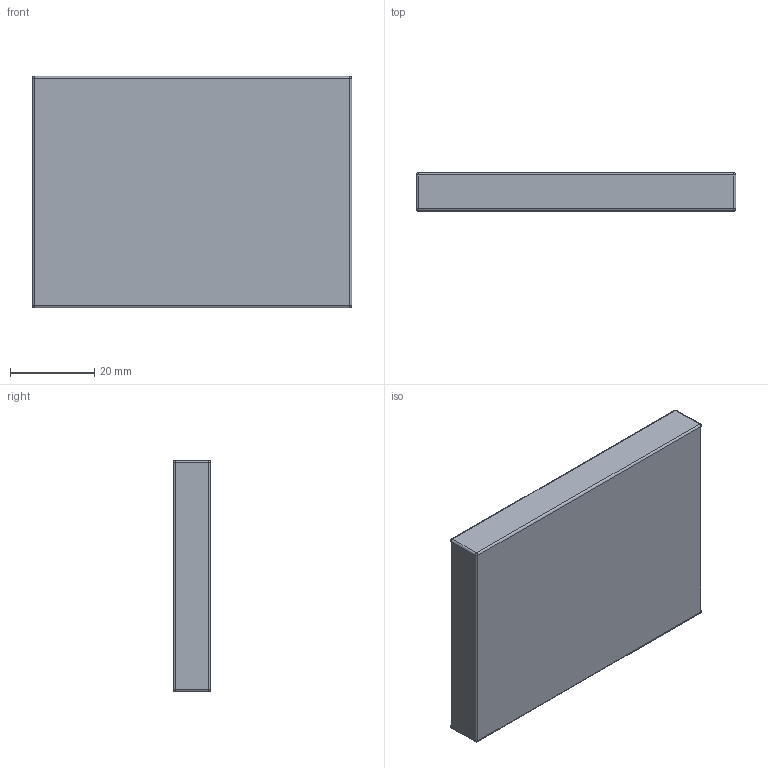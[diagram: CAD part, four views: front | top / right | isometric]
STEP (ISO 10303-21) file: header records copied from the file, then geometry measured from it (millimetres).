
FILE_DESCRIPTION (( 'STEP AP214' ), '1' );
FILE_NAME ('Li-Po Battery.STEP', '2019-09-17T04:39:46', ( '' ), ( '' ), 'SwSTEP 2.0', 'SolidWorks 2018', '' );
FILE_SCHEMA (( 'AUTOMOTIVE_DESIGN' ));
Length unit declared in the file: millimetre
Products named in the file (1): Li-Po Battery
Bounding box: 76 x 9 x 55 mm (x, y, z)
Volume: 37590.1 mm3; surface area: 10597.5 mm2
Topology: 1 solids, 1 shells, 26 faces, 56 edges, 24 vertices
Faces by surface type: cylinder 12, sphere 8, plane 6
Entity records: 658 total; most frequent: DIRECTION 126, CARTESIAN_POINT 99, ORIENTED_EDGE 96, AXIS2_PLACEMENT_3D 51, EDGE_CURVE 48, FACE_OUTER_BOUND 26, EDGE_LOOP 26, ADVANCED_FACE 26
